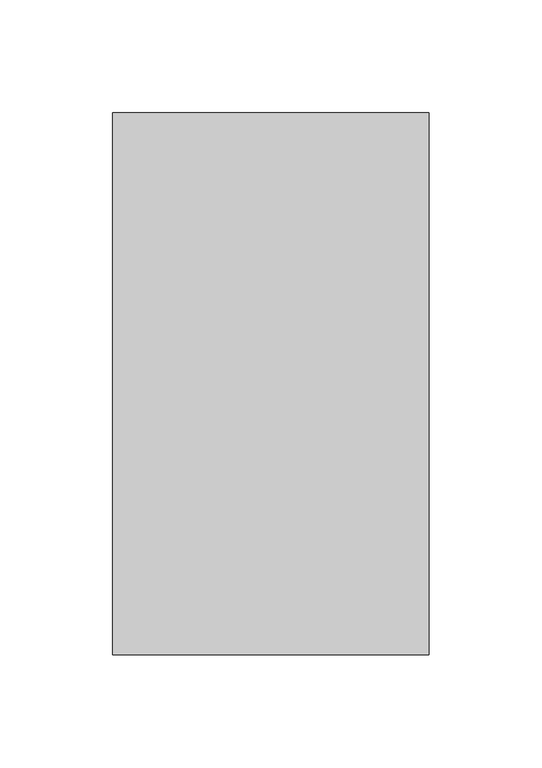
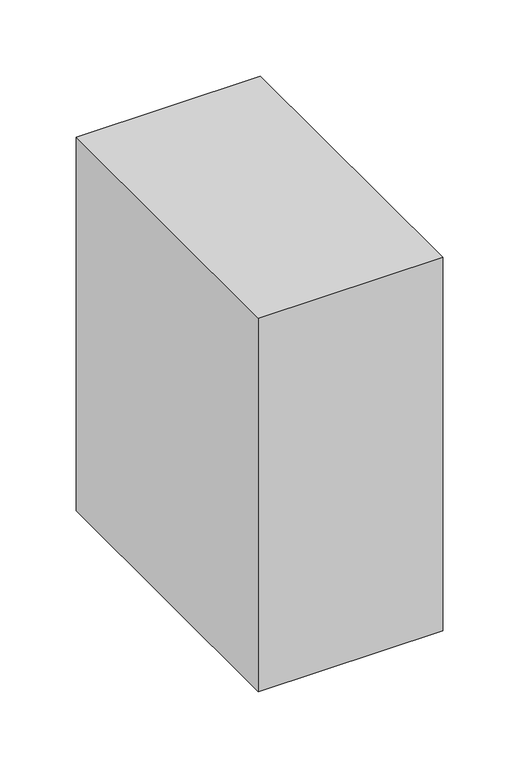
"""IFC4 building model written with IfcOpenShell, lengths in millimetres: proxy geometry."""

import ifcopenshell
import ifcopenshell.guid

model = None  # the IFC model being written
_history = None  # IfcOwnerHistory: only IFC2X3 demands one
_inside = {}  # id of a spatial element -> (the spatial element, [elements in it])
_under = {}  # id of a project, library or spatial element -> (it, [spatial elements below it])
_declared = {}  # id of a project -> (the project, [libraries it declares])
_typed = {}  # id of a type object -> (the type object, [elements of that type])
_made_of = {}  # id of a material, layer set ... -> (it, [elements and type objects made of it])


def new_model(schema):
    """Start an empty IFC model of exactly this schema.

    Asked for "IFC4X3", IfcOpenShell would pick the latest addendum, in which some entities
    have other attributes; the version numbers below select the first issue.
    IFC2X3 requires an IfcOwnerHistory on every rooted entity: one is made here for all.
    """
    global model, _history
    if schema == "IFC4X3":
        model = ifcopenshell.file(schema_version=(4, 3, 0, 0))
    else:
        model = ifcopenshell.file(schema=schema)
    _inside.clear()
    _under.clear()
    _declared.clear()
    _typed.clear()
    _made_of.clear()
    _history = None
    if model.schema == "IFC2X3":
        org = make("IfcOrganization", Name="unknown")
        user = make(
            "IfcPersonAndOrganization",
            ThePerson=make("IfcPerson", FamilyName="unknown"),
            TheOrganization=org,
        )
        app = make(
            "IfcApplication",
            ApplicationDeveloper=org,
            Version="unknown",
            ApplicationFullName="unknown",
            ApplicationIdentifier="unknown",
        )
        _history = make(
            "IfcOwnerHistory",
            OwningUser=user,
            OwningApplication=app,
            ChangeAction="ADDED",
            CreationDate=0,
        )
    return model


def make(cls, **values):
    """One entity of the class cls with the attributes given. An attribute that is None is left unset."""
    return model.create_entity(
        cls, **{name: value for name, value in values.items() if value is not None}
    )


def rooted(cls, **values):
    """An entity with a GlobalId (a new one), such as an element, a storey or a relation."""
    return make(cls, GlobalId=ifcopenshell.guid.new(), OwnerHistory=_history, **values)


def si_unit(unit_type, name, prefix=None):
    """IfcSIUnit, for example si_unit("LENGTHUNIT", "METRE", prefix="MILLI")."""
    return make("IfcSIUnit", UnitType=unit_type, Prefix=prefix, Name=name)


def assignment(units):
    """IfcUnitAssignment: the units of a project."""
    return None if units is None else make("IfcUnitAssignment", Units=units)


def point(xyz):
    """IfcCartesianPoint."""
    return None if xyz is None else make("IfcCartesianPoint", Coordinates=xyz)


def direction(xyz):
    """IfcDirection."""
    return None if xyz is None else make("IfcDirection", DirectionRatios=xyz)


def frame(location, z_axis=None, x_axis=None):
    """IfcAxis2Placement3D, a coordinate frame: its origin and axes. An axis left out is left unset."""
    return make(
        "IfcAxis2Placement3D",
        Location=point(location),
        Axis=direction(z_axis),
        RefDirection=direction(x_axis),
    )


def origin():
    """The frame at (0, 0, 0) with its axes left unset."""
    return frame((0.0, 0.0, 0.0))


def place(relative_to, where):
    """IfcLocalPlacement: puts the frame where relative to a parent placement (None: the world)."""
    return make(
        "IfcLocalPlacement", PlacementRelTo=relative_to, RelativePlacement=where
    )


def context(
    kind, dimensions, precision=None, world=None, true_north=None, identifier=None
):
    """IfcGeometricRepresentationContext, for example the 3D "Model" context."""
    return make(
        "IfcGeometricRepresentationContext",
        ContextIdentifier=identifier,
        ContextType=kind,
        CoordinateSpaceDimension=dimensions,
        Precision=precision,
        WorldCoordinateSystem=world,
        TrueNorth=true_north,
    )


def project(units=None, contexts=None):
    """IfcProject with its units and contexts."""
    return rooted(
        "IfcProject",
        Name="project",
        RepresentationContexts=contexts,
        UnitsInContext=assignment(units),
    )


def spatial(cls, under=None, at=None, **own):
    """A site, building, storey or space (cls), placed at a placement, below another one or the project."""
    s = rooted(cls, ObjectPlacement=at, **own)
    if under is not None:
        _under.setdefault(under.id(), (under, []))[1].append(s)
    return s


def polyline(points):
    """IfcPolyline through the points."""
    return make("IfcPolyline", Points=[point(p) for p in points])


def outline(outer, holes=None, kind="AREA"):
    """IfcArbitraryClosedProfileDef: a profile drawn as a closed curve; with holes, ...WithVoids."""
    if holes is None:
        return make("IfcArbitraryClosedProfileDef", ProfileType=kind, OuterCurve=outer)
    return make(
        "IfcArbitraryProfileDefWithVoids",
        ProfileType=kind,
        OuterCurve=outer,
        InnerCurves=holes,
    )


def extrude(swept, where, along, depth):
    """IfcExtrudedAreaSolid: the profile swept, set in the frame where, extruded along a direction by depth."""
    return make(
        "IfcExtrudedAreaSolid",
        SweptArea=swept,
        Position=where,
        ExtrudedDirection=direction(along),
        Depth=depth,
    )


def shape(context_of_items, identifier, shape_type, items):
    """IfcShapeRepresentation: the items that make up one representation, for example the "Body"."""
    return make(
        "IfcShapeRepresentation",
        ContextOfItems=context_of_items,
        RepresentationIdentifier=identifier,
        RepresentationType=shape_type,
        Items=items,
    )


def source(mapping_origin, context_of_items, identifier, shape_type, items):
    """IfcRepresentationMap: a shape defined once, which mapped items show again and again."""
    return make(
        "IfcRepresentationMap",
        MappingOrigin=mapping_origin,
        MappedRepresentation=shape(context_of_items, identifier, shape_type, items),
    )


def transform(
    local_origin,
    x_axis=None,
    y_axis=None,
    z_axis=None,
    scale=None,
    scale2=None,
    scale3=None,
    uniform=True,
):
    """IfcCartesianTransformationOperator3D, or its non-uniform kind. x_axis, y_axis, z_axis: its Axis1, 2, 3."""
    if uniform:
        return make(
            "IfcCartesianTransformationOperator3D",
            Axis1=direction(x_axis),
            Axis2=direction(y_axis),
            LocalOrigin=point(local_origin),
            Scale=scale,
            Axis3=direction(z_axis),
        )
    return make(
        "IfcCartesianTransformationOperator3DnonUniform",
        Axis1=direction(x_axis),
        Axis2=direction(y_axis),
        LocalOrigin=point(local_origin),
        Scale=scale,
        Axis3=direction(z_axis),
        Scale2=scale2,
        Scale3=scale3,
    )


def mapped(mapping_source, mapping_target):
    """IfcMappedItem: shows the shape of a source again, moved by a transform."""
    return make(
        "IfcMappedItem", MappingSource=mapping_source, MappingTarget=mapping_target
    )


def made_of(thing, what):
    """Note that an element or type object is made of a material, layer set ...; save() writes the relation."""
    if what is not None:
        _made_of.setdefault(what.id(), (what, []))[1].append(thing)
    return thing


def element(
    cls,
    number,
    at=None,
    inside=None,
    cuts=None,
    type_object=None,
    material=None,
    context=None,
    identifier="Body",
    shape_type=None,
    held_by="IfcProductDefinitionShape",
    body=None,
    shapes=None,
    **own,
):
    """One element of the class cls, such as IfcWall. Its Tag is "e" and its number.

    at: its placement. inside: the storey or other place that contains it. cuts: it is an
    opening in that element (IfcRelVoidsElement). A single representation is given by context,
    identifier, shape_type and body (its items); several are given by shapes. held_by: the class
    of the entity that holds the representations. save() writes the other relations.
    """
    e = rooted(cls, Tag="e%d" % number, ObjectPlacement=at, **own)
    if body is not None:
        shapes = [shape(context, identifier, shape_type, body)]
    if shapes is not None:
        e.Representation = make(held_by, Representations=shapes)
    if inside is not None:
        _inside.setdefault(inside.id(), (inside, []))[1].append(e)
    if cuts is not None:
        rooted(
            "IfcRelVoidsElement", RelatingBuildingElement=cuts, RelatedOpeningElement=e
        )
    if type_object is not None:
        _typed.setdefault(type_object.id(), (type_object, []))[1].append(e)
    return made_of(e, material)


def aggregate(whole, parts):
    """IfcRelAggregates: a whole, such as a stair, and the parts it consists of."""
    return rooted("IfcRelAggregates", RelatingObject=whole, RelatedObjects=parts)


def save(model, path):
    """Write the relations noted so far, then the file.

    IfcRelAggregates (storeys below a building ...), IfcRelContainedInSpatialStructure (elements
    in a storey), IfcRelDefinesByType, IfcRelAssociatesMaterial and IfcRelDeclares: one each for
    every whole, place, type object, material and project.
    """
    for whole, parts in _under.values():
        aggregate(whole, parts)
    for where, things in _inside.values():
        rooted(
            "IfcRelContainedInSpatialStructure",
            RelatedElements=things,
            RelatingStructure=where,
        )
    for kind, things in _typed.values():
        rooted("IfcRelDefinesByType", RelatedObjects=things, RelatingType=kind)
    for what, things in _made_of.values():
        rooted("IfcRelAssociatesMaterial", RelatedObjects=things, RelatingMaterial=what)
    for by, libraries in _declared.values():
        rooted("IfcRelDeclares", RelatingContext=by, RelatedDefinitions=libraries)
    model.write(path)


def structural_framing_92e5dd7b(model_context):
    return source(origin(), model_context, "Body", "SweptSolid", [
        extrude(outline(polyline([(70.0, -120.0), (-70.0, -120.0), (-70.0, 120.0), (70.0, 120.0), (70.0, -120.0)])), frame((0.0, 0.0, -300.0), z_axis=(0.0, 0.0, 1.0), x_axis=(1.0, 0.0, 0.0)), (0.0, 0.0, 1.0), 300.0),
    ])


if __name__ == "__main__":
    model = new_model("IFC4")
    model_context = context("Model", 3, world=origin())
    ifc_project = project(units=[si_unit("LENGTHUNIT", "METRE", prefix="MILLI")], contexts=[model_context])
    site = spatial("IfcSite", under=ifc_project)
    building = spatial("IfcBuilding", under=site)
    placement = place(None, origin())
    structural_framing_shape = structural_framing_92e5dd7b(model_context)
    element("IfcBuildingElementProxy", 1, Name="Structural Framing", at=placement, inside=building, context=model_context, shape_type="MappedRepresentation", body=[
        mapped(structural_framing_shape, transform((0.0, 0.0, 0.0), x_axis=(1.0, 0.0, 0.0), y_axis=(0.0, 1.0, 0.0), z_axis=(0.0, 0.0, 1.0))),
    ])
    save(model, "model.ifc")
